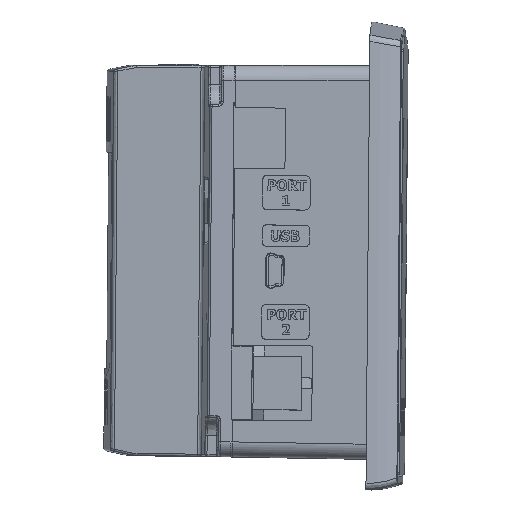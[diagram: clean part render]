
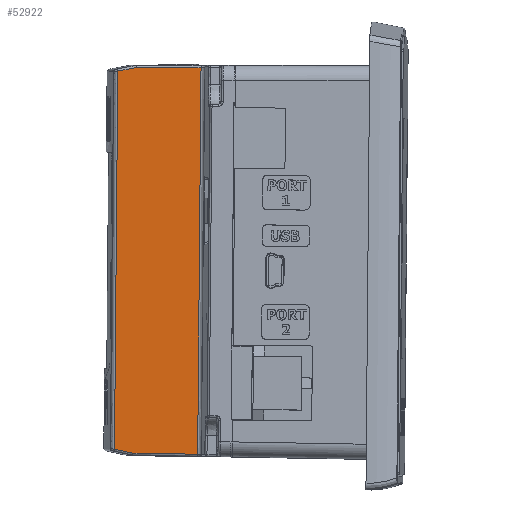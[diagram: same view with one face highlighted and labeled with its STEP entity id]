
A CAD part, front view. The second image highlights one B-rep face of the part: STEP entity #52922.
In plain terms, the highlighted planar face has unit normal (-0.044, -0.999, 0).
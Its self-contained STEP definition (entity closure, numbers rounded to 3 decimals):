
#2700 = CARTESIAN_POINT ( 'NONE',  ( -39.471, -91.746, -30.253 ) ) ;
#2704 = CARTESIAN_POINT ( 'NONE',  ( -39.731, -91.747, -60.005 ) ) ;
#2712 = CARTESIAN_POINT ( 'NONE',  ( -39.99, -91.747, -89.758 ) ) ;
#2714 = CARTESIAN_POINT ( 'NONE',  ( -39.211, -91.745, -0.5 ) ) ;
#5384 = CARTESIAN_POINT ( 'NONE',  ( -54.715, -91.069, -0.61 ) ) ;
#5386 = CARTESIAN_POINT ( 'NONE',  ( -55.285, -91.044, -0.72 ) ) ;
#5394 = LINE ( 'NONE', #5395, #22475 ) ;
#5395 = CARTESIAN_POINT ( 'NONE',  ( -62.995, -90.743, -89.357 ) ) ;
#5396 = DIRECTION ( 'NONE',  ( 0.999, -0.044, -0.017 ) ) ;
#5397 = LINE ( 'NONE', #5398, #22473 ) ;
#5398 = CARTESIAN_POINT ( 'NONE',  ( -61.104, -90.79, -0.5 ) ) ;
#5399 = DIRECTION ( 'NONE',  ( -0.999, 0.044, 0. ) ) ;
#5400 = CARTESIAN_POINT ( 'NONE',  ( -58.429, -90.907, -1.327 ) ) ;
#5401 = CARTESIAN_POINT ( 'NONE',  ( -54.146, -91.093, -0.5 ) ) ;
#5402 = CARTESIAN_POINT ( 'NONE',  ( -58.555, -90.907, -15.872 ) ) ;
#5403 = CARTESIAN_POINT ( 'NONE',  ( -55.854, -91.019, -0.83 ) ) ;
#5404 = CARTESIAN_POINT ( 'NONE',  ( -56.712, -90.982, -0.995 ) ) ;
#5405 = CARTESIAN_POINT ( 'NONE',  ( -57.57, -90.944, -1.161 ) ) ;
#5406 = CARTESIAN_POINT ( 'NONE',  ( -58.429, -90.907, -1.327 ) ) ;
#5407 = CARTESIAN_POINT ( 'NONE',  ( -59.19, -90.909, -88.596 ) ) ;
#5409 = CARTESIAN_POINT ( 'NONE',  ( -58.334, -90.946, -88.776 ) ) ;
#5410 = CARTESIAN_POINT ( 'NONE',  ( -58.682, -90.907, -30.417 ) ) ;
#5411 = CARTESIAN_POINT ( 'NONE',  ( -58.809, -90.908, -44.961 ) ) ;
#5412 = CARTESIAN_POINT ( 'NONE',  ( -58.936, -90.908, -59.506 ) ) ;
#5413 = CARTESIAN_POINT ( 'NONE',  ( -59.063, -90.908, -74.051 ) ) ;
#5414 = CARTESIAN_POINT ( 'NONE',  ( -59.19, -90.909, -88.596 ) ) ;
#5417 = CARTESIAN_POINT ( 'NONE',  ( -57.479, -90.983, -88.957 ) ) ;
#5418 = CARTESIAN_POINT ( 'NONE',  ( -56.624, -91.021, -89.138 ) ) ;
#5419 = CARTESIAN_POINT ( 'NONE',  ( -56.057, -91.046, -89.258 ) ) ;
#5420 = CARTESIAN_POINT ( 'NONE',  ( -55.489, -91.07, -89.378 ) ) ;
#5421 = CARTESIAN_POINT ( 'NONE',  ( -54.922, -91.095, -89.498 ) ) ;
#6425 = AXIS2_PLACEMENT_3D ( 'NONE', #7739, #7745, #7746 ) ;
#7736 = PLANE ( 'NONE',  #6425 ) ;
#7739 = CARTESIAN_POINT ( 'NONE',  ( -61.103, -90.782, 19.047 ) ) ;
#7743 = FACE_OUTER_BOUND ( 'NONE', #76917, .T. ) ;
#7745 = DIRECTION ( 'NONE',  ( 0.044, 0.999, 0. ) ) ;
#7746 = DIRECTION ( 'NONE',  ( -0.999, 0.044, 0.009 ) ) ;
#22473 = VECTOR ( 'NONE', #5399, 1000. ) ;
#22475 = VECTOR ( 'NONE', #5396, 1000. ) ;
#23874 = CARTESIAN_POINT ( 'NONE',  ( -54.146, -91.093, -0.5 ) ) ;
#23882 = CARTESIAN_POINT ( 'NONE',  ( -58.429, -90.907, -1.327 ) ) ;
#23886 = CARTESIAN_POINT ( 'NONE',  ( -59.19, -90.909, -88.596 ) ) ;
#24646 = CARTESIAN_POINT ( 'NONE',  ( -54.922, -91.095, -89.498 ) ) ;
#24688 = CARTESIAN_POINT ( 'NONE',  ( -39.99, -91.747, -89.758 ) ) ;
#24710 = CARTESIAN_POINT ( 'NONE',  ( -39.211, -91.745, -0.5 ) ) ;
#42280 = B_SPLINE_CURVE_WITH_KNOTS ( 'NONE', 3,
 ( #2712, #2704, #2700, #2714 ),
 .UNSPECIFIED., .F., .F.,
 ( 4, 4 ),
 ( 0., 0.089 ),
 .UNSPECIFIED. ) ;
#42319 = B_SPLINE_CURVE_WITH_KNOTS ( 'NONE', 3,
 ( #5401, #5384, #5386, #5403, #5404, #5405, #5406 ),
 .UNSPECIFIED., .F., .F.,
 ( 4, 3, 4 ),
 ( 0., 0.002, 0.004 ),
 .UNSPECIFIED. ) ;
#42320 = B_SPLINE_CURVE_WITH_KNOTS ( 'NONE', 3,
 ( #5400, #5402, #5410, #5411, #5412, #5413, #5414 ),
 .UNSPECIFIED., .F., .F.,
 ( 4, 3, 4 ),
 ( 0., 0.044, 0.088 ),
 .UNSPECIFIED. ) ;
#42321 = B_SPLINE_CURVE_WITH_KNOTS ( 'NONE', 3,
 ( #5407, #5409, #5417, #5418, #5419, #5420, #5421 ),
 .UNSPECIFIED., .F., .F.,
 ( 4, 3, 4 ),
 ( 0., 0.003, 0.004 ),
 .UNSPECIFIED. ) ;
#48285 = EDGE_CURVE ( 'NONE', #72958, #72970, #42280, .T. ) ;
#48630 = EDGE_CURVE ( 'NONE', #72916, #72958, #5394, .T. ) ;
#48631 = EDGE_CURVE ( 'NONE', #72970, #72158, #5397, .T. ) ;
#48632 = EDGE_CURVE ( 'NONE', #72158, #72161, #42319, .T. ) ;
#48633 = EDGE_CURVE ( 'NONE', #72161, #72163, #42320, .T. ) ;
#48634 = EDGE_CURVE ( 'NONE', #72163, #72916, #42321, .T. ) ;
#50799 = ORIENTED_EDGE ( 'NONE', *, *, #48630, .T. ) ;
#50801 = ORIENTED_EDGE ( 'NONE', *, *, #48285, .T. ) ;
#50803 = ORIENTED_EDGE ( 'NONE', *, *, #48631, .T. ) ;
#50805 = ORIENTED_EDGE ( 'NONE', *, *, #48632, .T. ) ;
#50806 = ORIENTED_EDGE ( 'NONE', *, *, #48633, .T. ) ;
#50808 = ORIENTED_EDGE ( 'NONE', *, *, #48634, .T. ) ;
#52922 = ADVANCED_FACE ( 'NONE', ( #7743 ), #7736, .F. ) ;
#72158 = VERTEX_POINT ( 'NONE', #23874 ) ;
#72161 = VERTEX_POINT ( 'NONE', #23882 ) ;
#72163 = VERTEX_POINT ( 'NONE', #23886 ) ;
#72916 = VERTEX_POINT ( 'NONE', #24646 ) ;
#72958 = VERTEX_POINT ( 'NONE', #24688 ) ;
#72970 = VERTEX_POINT ( 'NONE', #24710 ) ;
#76917 = EDGE_LOOP ( 'NONE', ( #50799, #50801, #50803, #50805, #50806, #50808 ) ) ;
